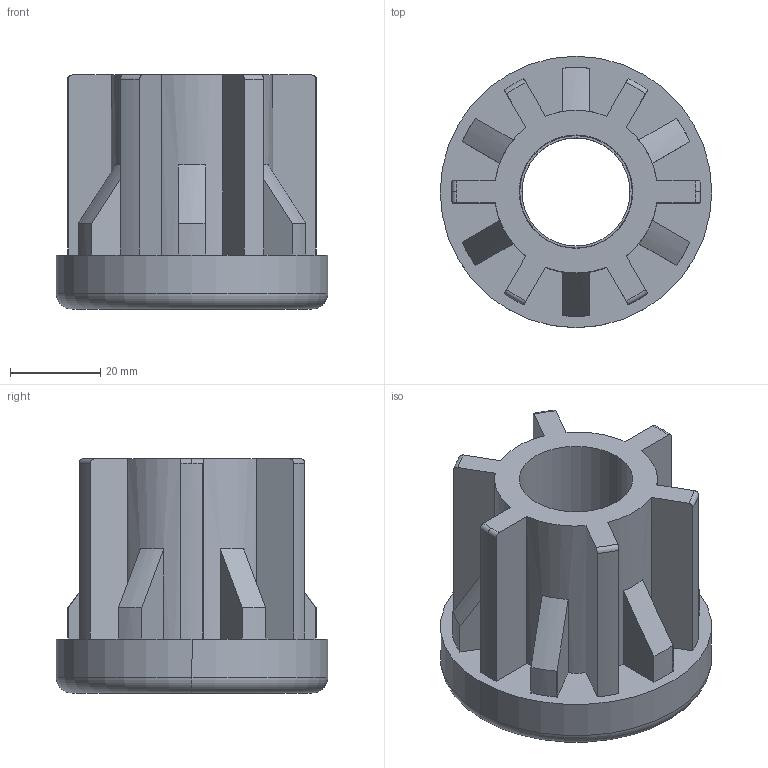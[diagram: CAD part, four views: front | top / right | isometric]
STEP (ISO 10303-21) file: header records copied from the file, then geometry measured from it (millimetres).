
FILE_DESCRIPTION (( 'STEP AP214' ), '1' );
FILE_NAME ('42006460424.STEP', '2020-02-25T17:36:39', ( '' ), ( '' ), 'SwSTEP 2.0', 'SolidWorks 2018', '' );
FILE_SCHEMA (( 'AUTOMOTIVE_DESIGN' ));
Length unit declared in the file: millimetre
Products named in the file (4): corpo tappo M24_60_57.stp; 42006460424; BC_M24.stp; 42006460424.stp
Assembly tree (3 placements, depth 3):
  42006460424
    42006460424.stp
      corpo tappo M24_60_57.stp
      BC_M24.stp
Bounding box: 60.3 x 60.3 x 52 mm (x, y, z)
Volume: 65760.7 mm3; surface area: 25484.7 mm2
Topology: 2 solids, 2 shells, 108 faces, 282 edges, 182 vertices
Faces by surface type: cylinder 46, plane 32, torus 16, cone 8, bspline 6
Entity records: 4406 total; most frequent: CARTESIAN_POINT 1613, DIRECTION 570, ORIENTED_EDGE 564, EDGE_CURVE 282, AXIS2_PLACEMENT_3D 225, VERTEX_POINT 182, VECTOR 120, LINE 120
